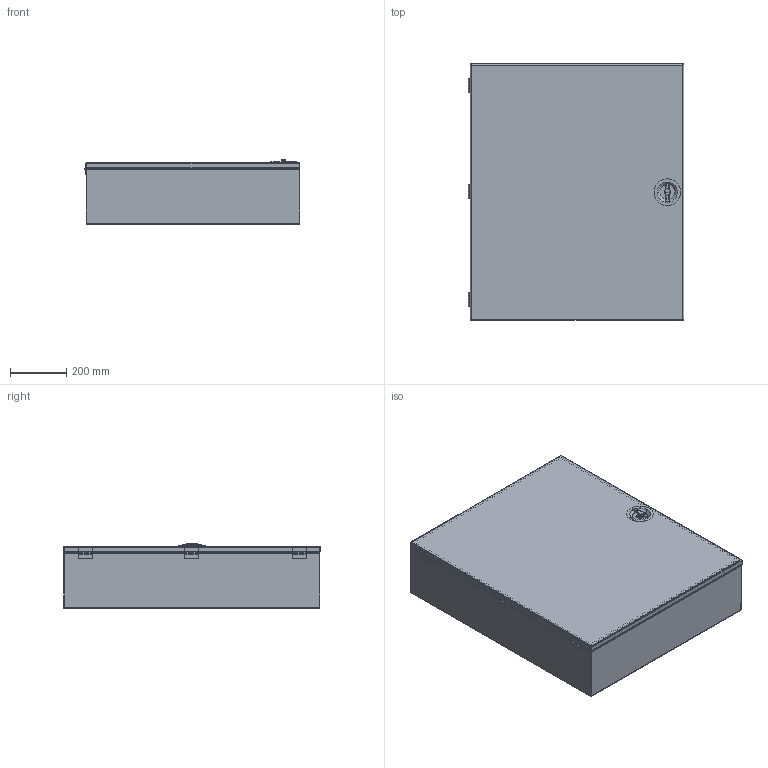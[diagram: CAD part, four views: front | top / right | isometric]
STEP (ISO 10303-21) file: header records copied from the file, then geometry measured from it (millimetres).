
FILE_DESCRIPTION (( 'STEP AP203' ), '1' );
FILE_NAME ('a36n308lp.STEP', '2008-10-17T18:41:04', ( 'Hoffman User' ), ( 'Hoffman Enclosures' ), 'SwSTEP 2.0', 'SolidWorks 2007', '' );
FILE_SCHEMA (( 'CONFIG_CONTROL_DESIGN' ));
Length unit declared in the file: inch
Products named in the file (13): A1M_WMC_Door_36x30; A1M_WMC_WmtDoor_36x30; 22101005_Washer438x1x031; 34123001_Spacer; 34121001_Latch; assy_hinge_14102001_14102015; Handle; hinge_side_2in; Panel_MedType1_A36N30MP; 22112002; a36n308lp; A1M_WMC_Body_36x30x8; A1M_WMC_WmtBody_36x30x8
Assembly tree (22 placements, depth 4):
  a36n308lp
    A1M_WMC_WmtBody_36x30x8
      22112002  x8
      A1M_WMC_Body_36x30x8
    Panel_MedType1_A36N30MP
    A1M_WMC_WmtDoor_36x30
      Handle
      assy_hinge_14102001_14102015  x3
        hinge_side_2in
      A1M_WMC_Door_36x30
      22101005_Washer438x1x031
      34123001_Spacer
      34121001_Latch
Bounding box: 769.94 x 917.16 x 229.95 mm (x, y, z)
Volume: 5126558.7 mm3; surface area: 5618030.5 mm2
Topology: 21 solids, 21 shells, 643 faces, 1470 edges, 890 vertices
Faces by surface type: plane 290, cylinder 230, torus 55, bspline 46, cone 22
Entity records: 14423 total; most frequent: CARTESIAN_POINT 4081, ORIENTED_EDGE 1804, DIRECTION 1771, EDGE_CURVE 902, AXIS2_PLACEMENT_3D 599, LINE 573, VECTOR 573, VERTEX_POINT 530
